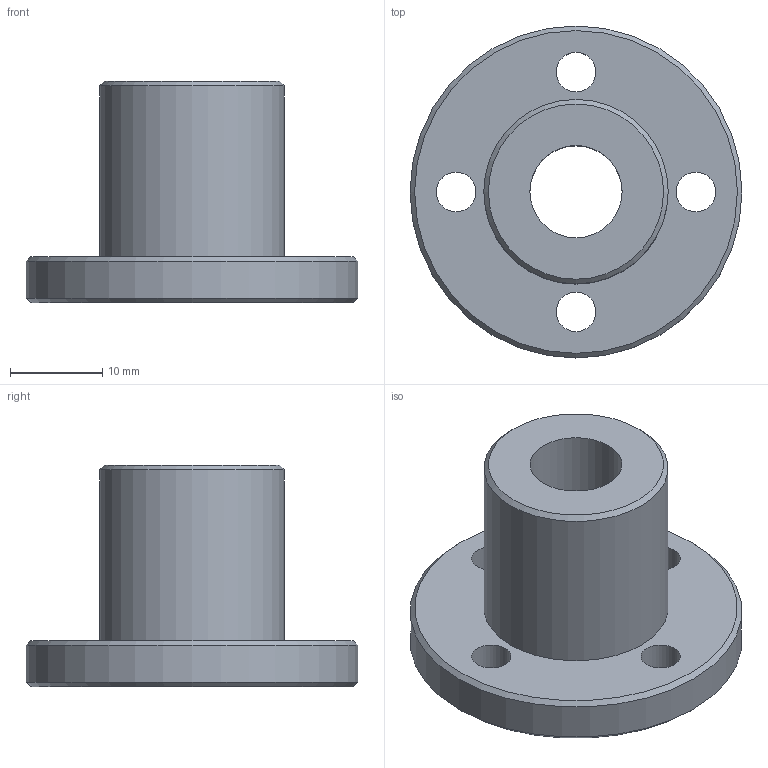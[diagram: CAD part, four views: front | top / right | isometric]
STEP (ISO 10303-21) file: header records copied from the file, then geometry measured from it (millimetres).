
FILE_DESCRIPTION(('STEP AP203'),'1');
FILE_NAME('//192.168.1.1/share/s-4 技術開発/s-4-4_CAD/s-4-4-3_見直し済み/018 修正済み/TMFON/TMFON_TOP/TMFON-10R.step','2022-02-08T05:48:44',(' '),(' '),'Spatial InterOp 3D',' ',' ');
FILE_SCHEMA(('CONFIG_CONTROL_DESIGN'));
Length unit declared in the file: millimetre
Products named in the file (1): 1
Bounding box: 36 x 36 x 24 mm (x, y, z)
Volume: 8847.3 mm3; surface area: 4460.3 mm2
Topology: 1 solids, 1 shells, 13 faces, 27 edges, 17 vertices
Faces by surface type: cylinder 7, plane 3, cone 3
Full cylindrical faces by diameter (mm): 4.3 x4, 10 x1, 20 x1, 36 x1
Entity records: 368 total; most frequent: DIRECTION 62, CARTESIAN_POINT 48, EDGE_LOOP 34, ORIENTED_EDGE 34, AXIS2_PLACEMENT_3D 31, FACE_OUTER_BOUND 20, EDGE_CURVE 17, VERTEX_POINT 17
